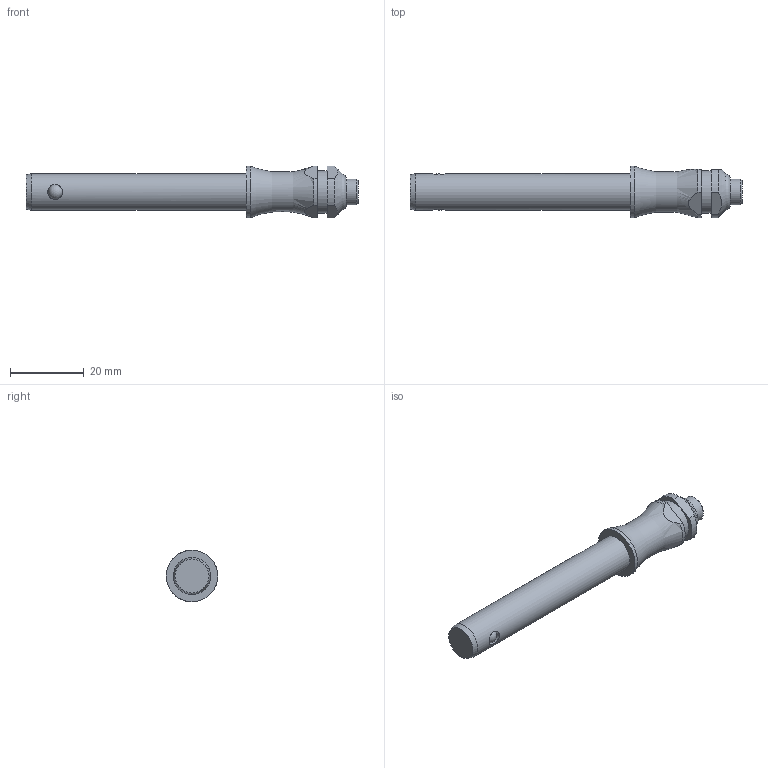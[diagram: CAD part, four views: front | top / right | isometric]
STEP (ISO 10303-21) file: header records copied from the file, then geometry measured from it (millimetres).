
FILE_DESCRIPTION( ( 'STEP AP203' ), '1' );
FILE_NAME( 'C:/Temp/Ganter_Step_05_03_2020/data/3_1/gn113_3/Stainless Steel-Ball lock pin GN 113.3-10-50 (activated).stp', '2020-03-12T08:18:35', ( 'License CC BY-ND 4.0' ), ( 'CADENAS' ), ' ', 'PARTsolutions', ' ' );
FILE_SCHEMA( ( 'CONFIG_CONTROL_DESIGN' ) );
Length unit declared in the file: millimetre
Products named in the file (1): _Stainless Steel-Ball lock pin GN 113.3-10-50 (activated)
Bounding box: 89.75 x 14 x 14 mm (x, y, z)
Volume: 7758.9 mm3; surface area: 3323.4 mm2
Topology: 1 solids, 1 shells, 30 faces, 72 edges, 45 vertices
Faces by surface type: cylinder 12, plane 11, cone 3, torus 2, sphere 2
Full cylindrical faces by diameter (mm): 4 x2, 7 x1, 10 x1, 11.6 x1, 14 x1
Entity records: 988 total; most frequent: CARTESIAN_POINT 341, DIRECTION 130, ORIENTED_EDGE 102, AXIS2_PLACEMENT_3D 56, EDGE_CURVE 51, EDGE_LOOP 46, VERTEX_POINT 39, FACE_OUTER_BOUND 38
